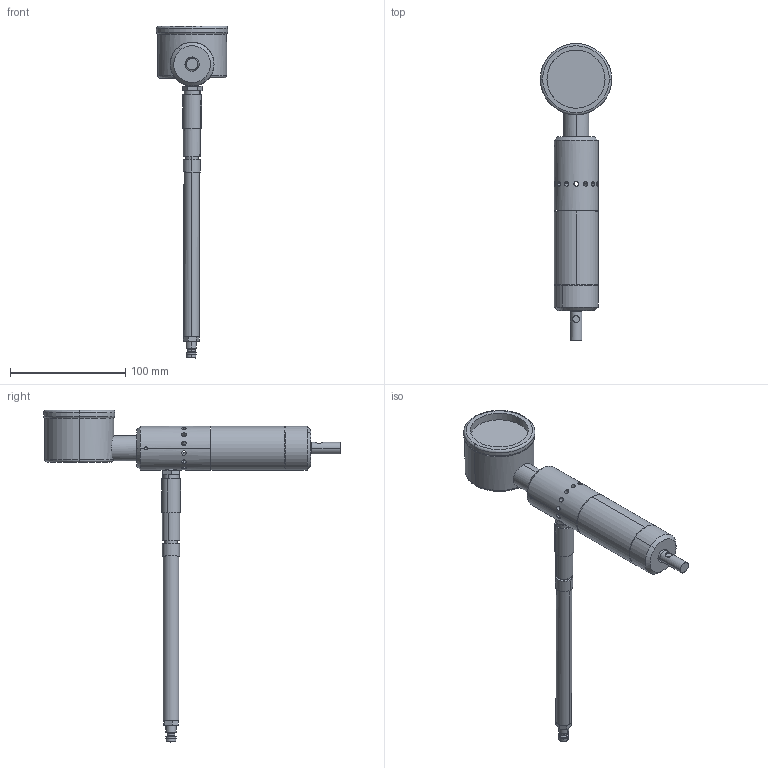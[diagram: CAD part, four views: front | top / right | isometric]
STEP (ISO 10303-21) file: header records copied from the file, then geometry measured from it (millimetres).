
FILE_DESCRIPTION (( 'STEP AP214' ), '1' );
FILE_NAME ('PLR11T.STEP', '2019-03-12T07:31:06', ( '' ), ( '' ), 'SwSTEP 2.0', 'SolidWorks 2018', '' );
FILE_SCHEMA (( 'AUTOMOTIVE_DESIGN' ));
Length unit declared in the file: millimetre
Products named in the file (12): Halterohr Standart; Rändelschraube; Schnellkupplung; Halterohr; Kopie von Tacho^PLR11T; Kopie von Distanzring PLR 11^PLR11T; Kopie von Verschluss PLR 11^PLR11T; Kopie von Deckel PLR 11^PLR11T; Kopie von Stator PLR 11^PLR11T; Kopie von Rotor PLR 11^PLR11T; Kopie von Motorblock PLR 11^PLR11T; PLR11T
Assembly tree (11 placements, depth 3):
  PLR11T
    Kopie von Motorblock PLR 11^PLR11T
    Kopie von Rotor PLR 11^PLR11T
    Kopie von Stator PLR 11^PLR11T
    Kopie von Deckel PLR 11^PLR11T
    Kopie von Verschluss PLR 11^PLR11T
    Kopie von Distanzring PLR 11^PLR11T
    Kopie von Tacho^PLR11T
    Halterohr Standart
      Halterohr
      Schnellkupplung
      Rändelschraube
Bounding box: 62.02 x 258 x 288.42 mm (x, y, z)
Volume: 242617.4 mm3; surface area: 98994.4 mm2
Topology: 10 solids, 10 shells, 241 faces, 514 edges, 317 vertices
Faces by surface type: cylinder 142, plane 71, cone 18, torus 9, bspline 1
Entity records: 8370 total; most frequent: CARTESIAN_POINT 2361, DIRECTION 1197, ORIENTED_EDGE 1024, EDGE_CURVE 512, AXIS2_PLACEMENT_3D 501, VERTEX_POINT 317, EDGE_LOOP 303, CIRCLE 246
